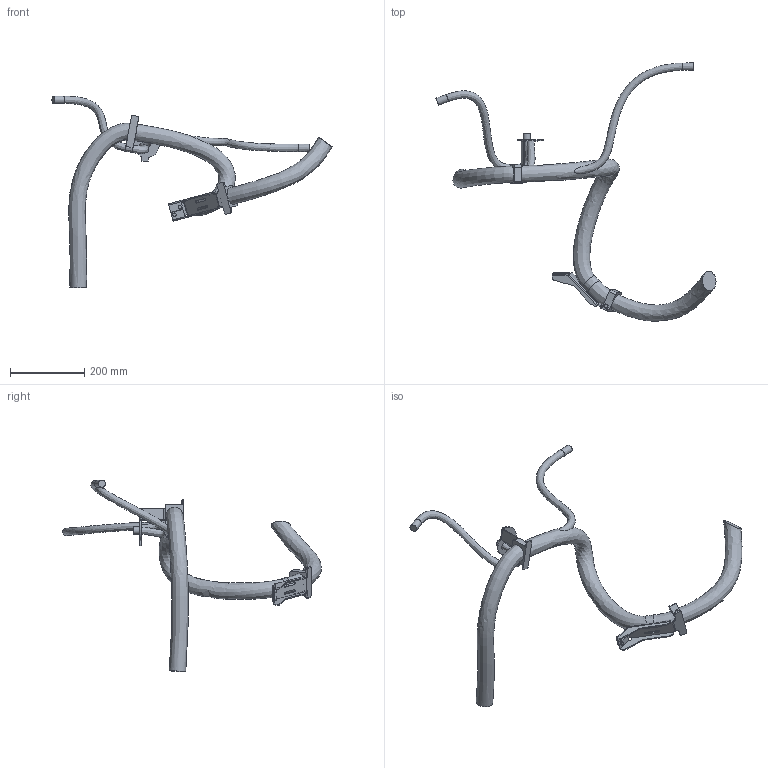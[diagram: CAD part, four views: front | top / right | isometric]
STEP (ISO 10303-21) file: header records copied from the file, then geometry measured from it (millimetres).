
FILE_DESCRIPTION (( 'STEP AP203' ), '1' );
FILE_NAME ('IRB6730S-ALL-OC_00_LINK01m_CABLE.step', '2025-12-19T13:14:20', ( '' ), ( '' ), 'SwSTEP 2.0', 'SolidWorks 2024', '' );
FILE_SCHEMA (( 'CONFIG_CONTROL_DESIGN' ));
Length unit declared in the file: millimetre
Products named in the file (1): IRB6730S-ALL-OC_00_LINK01m_CABLE
Bounding box: 756.41 x 698 x 518.2 mm (x, y, z)
Volume: 2947784.1 mm3; surface area: 340692.7 mm2
Topology: 1 solids, 1 shells, 210 faces, 554 edges, 353 vertices
Faces by surface type: plane 129, cylinder 68, bspline 13
Full cylindrical faces by diameter (mm): 8 x4, 9 x4, 20 x2
Entity records: 11207 total; most frequent: CARTESIAN_POINT 6072, ORIENTED_EDGE 1040, DIRECTION 1037, EDGE_CURVE 520, AXIS2_PLACEMENT_3D 346, LINE 345, VECTOR 345, VERTEX_POINT 339
